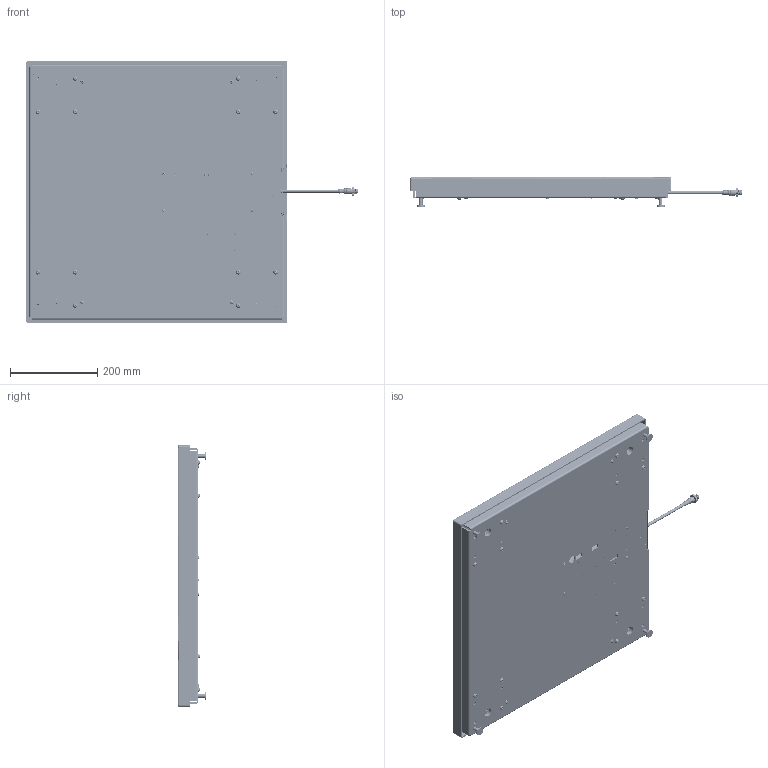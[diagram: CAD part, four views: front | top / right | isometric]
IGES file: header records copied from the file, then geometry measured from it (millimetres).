
Start section: SolidWorks IGES file using analytic representation for surfaces
Global section: file name: C:\0_Work\SolidWorks\~0_E-Scales\24x24\HI2424SBD-660.IGS; native system: SolidWorks 2017; preprocessor: SolidWorks 2017; author: vach01; date: 190815.113505; units: millimetre
Bounding box: 762.12 x 66.39 x 600 mm (x, y, z)
Surface area: 2018321.9 mm2 (no closed solid volume)
Topology: 0 solids, 0 shells, 12742 faces, 115273 edges, 115113 vertices
Faces by surface type: bspline 9325, revolution 3417
